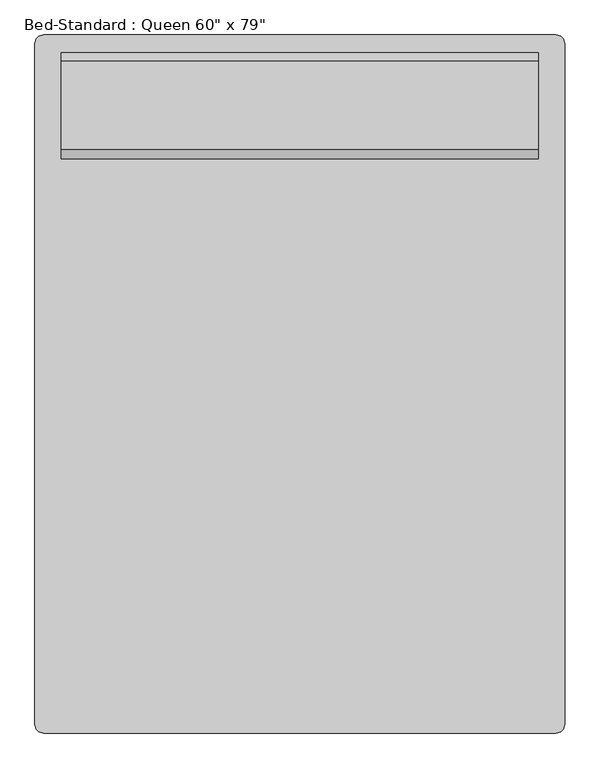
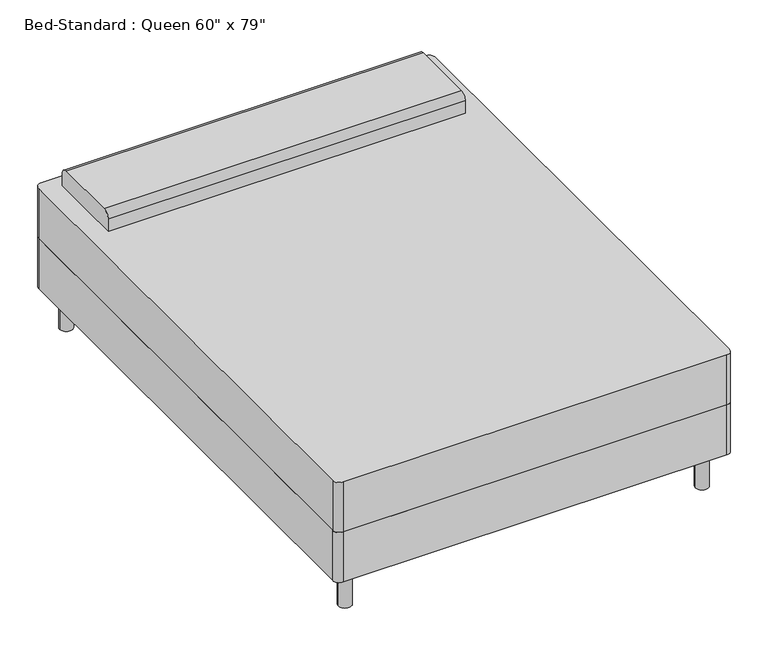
"""IFC4 building model written with IfcOpenShell, lengths in millimetres: furniture geometry."""

from ifc_helpers import new_model, si_unit, point, frame, frame_2d, origin, origin_with_axes, place, context, project, spatial, polyline, circle_curve, trimmed, segment, composite_curve, outline, extrude, source, transform, mapped, element, save


def furniture_e1791683(model_context):
    return source(origin(), model_context, "Body", "SweptSolid", [
        extrude(outline(composite_curve([segment(polyline([(-490.5114754, -1023.495082), (-490.5114754, 932.304918)]), True, "CONTINUOUS"), segment(trimmed(circle_curve(frame_2d((-465.1114754, 932.304918)), 25.4), [point((-490.5114754, 932.304918))], [point((-465.1114754, 957.704918))], False, "CARTESIAN"), True, "CONTINUOUS"), segment(polyline([(-465.1114754, 957.704918), (1008.0885246, 957.704918)]), True, "CONTINUOUS"), segment(trimmed(circle_curve(frame_2d((1008.0885246, 932.304918)), 25.4), [point((1008.0885246, 957.704918))], [point((1033.4885246, 932.304918))], False, "CARTESIAN"), True, "CONTINUOUS"), segment(polyline([(1033.4885246, 932.304918), (1033.4885246, -1023.495082)]), True, "CONTINUOUS"), segment(trimmed(circle_curve(frame_2d((1008.0885246, -1023.495082)), 25.4), [point((1033.4885246, -1023.495082))], [point((1008.0885246, -1048.895082))], False, "CARTESIAN"), True, "CONTINUOUS"), segment(polyline([(1008.0885246, -1048.895082), (-465.1114754, -1048.895082)]), True, "CONTINUOUS"), segment(trimmed(circle_curve(frame_2d((-465.1114754, -1023.495082)), 25.4), [point((-465.1114754, -1048.895082))], [point((-490.5114754, -1023.495082))], False, "CARTESIAN"), True, "CONTINUOUS")], self_intersect=False)), frame((0.0, 0.0, 152.4), z_axis=(0.0, 0.0, 1.0), x_axis=(1.0, 0.0, 0.0)), (0.0, 0.0, 1.0), 203.2),
        extrude(outline(composite_curve([segment(polyline([(602.104918, 558.8), (602.104918, 609.6)]), True, "CONTINUOUS"), segment(trimmed(circle_curve(frame_2d((627.504918, 609.6)), 25.4), [point((602.104918, 609.6))], [point((627.504918, 635.0))], False, "CARTESIAN"), True, "CONTINUOUS"), segment(polyline([(627.504918, 635.0), (881.504918, 635.0)]), True, "CONTINUOUS"), segment(trimmed(circle_curve(frame_2d((881.504918, 609.6)), 25.4), [point((881.504918, 635.0))], [point((906.904918, 609.6))], False, "CARTESIAN"), True, "CONTINUOUS"), segment(polyline([(906.904918, 609.6), (906.904918, 558.8), (602.104918, 558.8)]), True, "CONTINUOUS")], self_intersect=False)), frame((-414.3114754, 0.0, 0.0), z_axis=(1.0, 0.0, 0.0), x_axis=(0.0, 1.0, 0.0)), (0.0, 0.0, 1.0), 1371.6),
        extrude(outline(composite_curve([segment(trimmed(circle_curve(frame_2d((-414.3114754, 881.504918)), 25.4), [point((-439.7114754, 881.504918))], [point((-388.9114754, 881.504918))], False, "CARTESIAN"), True, "CONTINUOUS"), segment(trimmed(circle_curve(frame_2d((-414.3114754, 881.504918)), 25.4), [point((-388.9114754, 881.504918))], [point((-439.7114754, 881.504918))], False, "CARTESIAN"), True, "CONTINUOUS")], self_intersect=False)), origin_with_axes(), (0.0, 0.0, 1.0), 152.4),
        extrude(outline(composite_curve([segment(trimmed(circle_curve(frame_2d((957.2885246, 881.504918)), 25.4), [point((931.8885246, 881.504918))], [point((982.6885246, 881.504918))], False, "CARTESIAN"), True, "CONTINUOUS"), segment(trimmed(circle_curve(frame_2d((957.2885246, 881.504918)), 25.4), [point((982.6885246, 881.504918))], [point((931.8885246, 881.504918))], False, "CARTESIAN"), True, "CONTINUOUS")], self_intersect=False)), origin_with_axes(), (0.0, 0.0, 1.0), 152.4),
        extrude(outline(composite_curve([segment(trimmed(circle_curve(frame_2d((957.2885246, -972.695082)), 25.4), [point((931.8885246, -972.695082))], [point((982.6885246, -972.695082))], False, "CARTESIAN"), True, "CONTINUOUS"), segment(trimmed(circle_curve(frame_2d((957.2885246, -972.695082)), 25.4), [point((982.6885246, -972.695082))], [point((931.8885246, -972.695082))], False, "CARTESIAN"), True, "CONTINUOUS")], self_intersect=False)), origin_with_axes(), (0.0, 0.0, 1.0), 152.4),
        extrude(outline(composite_curve([segment(trimmed(circle_curve(frame_2d((-414.3114754, -972.695082)), 25.4), [point((-439.7114754, -972.695082))], [point((-388.9114754, -972.695082))], False, "CARTESIAN"), True, "CONTINUOUS"), segment(trimmed(circle_curve(frame_2d((-414.3114754, -972.695082)), 25.4), [point((-388.9114754, -972.695082))], [point((-439.7114754, -972.695082))], False, "CARTESIAN"), True, "CONTINUOUS")], self_intersect=False)), origin_with_axes(), (0.0, 0.0, 1.0), 152.4),
        extrude(outline(composite_curve([segment(polyline([(-465.1114754, 957.704918), (1008.0885246, 957.704918)]), True, "CONTINUOUS"), segment(trimmed(circle_curve(frame_2d((1008.0885246, 932.304918)), 25.4), [point((1008.0885246, 957.704918))], [point((1033.4885246, 932.304918))], False, "CARTESIAN"), True, "CONTINUOUS"), segment(polyline([(1033.4885246, 932.304918), (1033.4885246, -1023.495082)]), True, "CONTINUOUS"), segment(trimmed(circle_curve(frame_2d((1008.0885246, -1023.495082)), 25.4), [point((1033.4885246, -1023.495082))], [point((1008.0885246, -1048.895082))], False, "CARTESIAN"), True, "CONTINUOUS"), segment(polyline([(1008.0885246, -1048.895082), (-465.1114754, -1048.895082)]), True, "CONTINUOUS"), segment(trimmed(circle_curve(frame_2d((-465.1114754, -1023.495082)), 25.4), [point((-465.1114754, -1048.895082))], [point((-490.5114754, -1023.495082))], False, "CARTESIAN"), True, "CONTINUOUS"), segment(polyline([(-490.5114754, -1023.495082), (-490.5114754, 932.304918)]), True, "CONTINUOUS"), segment(trimmed(circle_curve(frame_2d((-465.1114754, 932.304918)), 25.4), [point((-490.5114754, 932.304918))], [point((-465.1114754, 957.704918))], False, "CARTESIAN"), True, "CONTINUOUS")], self_intersect=False)), frame((0.0, 0.0, 355.6), z_axis=(0.0, 0.0, 1.0), x_axis=(1.0, 0.0, 0.0)), (0.0, 0.0, 1.0), 203.2),
    ])


if __name__ == "__main__":
    model = new_model("IFC4")
    model_context = context("Model", 3, world=origin())
    ifc_project = project(units=[si_unit("LENGTHUNIT", "METRE", prefix="MILLI")], contexts=[model_context])
    site = spatial("IfcSite", under=ifc_project)
    building = spatial("IfcBuilding", under=site)
    placement = place(None, origin())
    furniture_shape = furniture_e1791683(model_context)
    element("IfcFurniture", 1, ObjectType="Bed-Standard : Queen 60\" x 79\"", at=placement, inside=building, context=model_context, shape_type="MappedRepresentation", body=[
        mapped(furniture_shape, transform((0.0, 0.0, 0.0), x_axis=(1.0, 0.0, 0.0), y_axis=(0.0, 1.0, 0.0), z_axis=(0.0, 0.0, 1.0))),
    ])
    save(model, "model.ifc")
